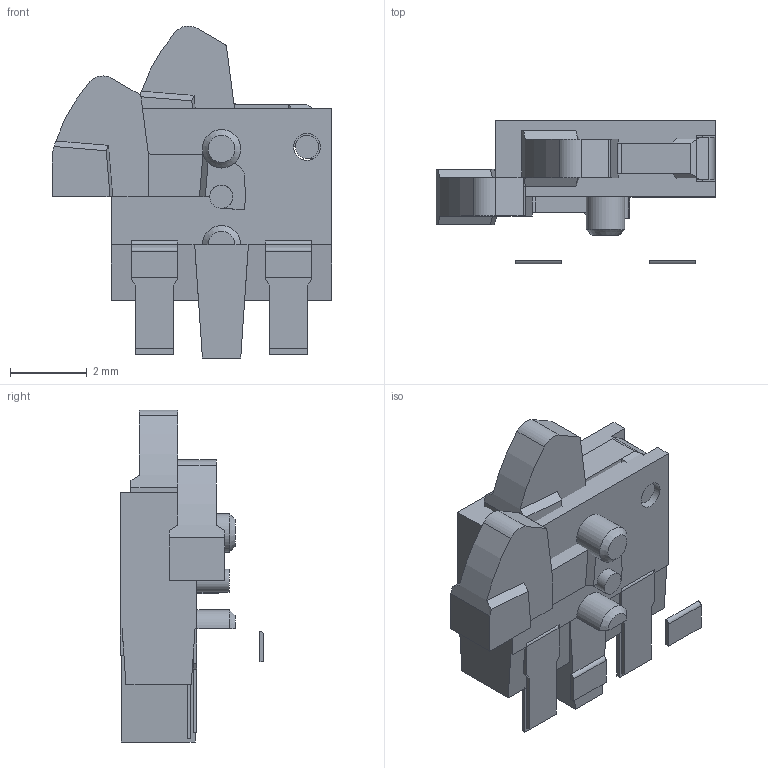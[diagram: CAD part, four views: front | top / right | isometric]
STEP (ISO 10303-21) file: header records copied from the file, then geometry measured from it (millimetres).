
FILE_DESCRIPTION( ( 'Unknown' ), '1' );
FILE_NAME( '//Ntcw022/edgesv/fsw/ユーザ提出用データ/ﾃﾞｨﾃｸﾀｰｽｲｯﾁ/ESE22/ese22mh27t-std-sk.stp', 'Unknown', ( 'Unknown' ), ( 'Unknown' ), 'PSStep 10.0', 'Unknown', ' ' );
FILE_SCHEMA( ( 'AUTOMOTIVE_DESIGN { 1 0 10303 214 1 1 1 1 }' ) );
Length unit declared in the file: millimetre
Products named in the file (7): Assem1; e22cs4ae-mh-pc-r00; sw-3d-131-e22lv12a-sk-r00; sw-3d-131-e22ts16mh(std)-sk-r00
Bounding box: 7.29 x 3.74 x 8.65 mm (x, y, z)
Volume: 139.5 mm3; surface area: 345.3 mm2
Topology: 12 solids, 12 shells, 244 faces, 654 edges, 434 vertices
Faces by surface type: plane 214, cylinder 26, cone 4
Full cylindrical faces by diameter (mm): 0.6 x2, 0.7 x2, 1 x2
Entity records: 4806 total; most frequent: CARTESIAN_POINT 660, ORIENTED_EDGE 636, DIRECTION 612, EDGE_CURVE 318, LINE 282, VECTOR 282, VERTEX_POINT 213, AXIS2_PLACEMENT_3D 165
